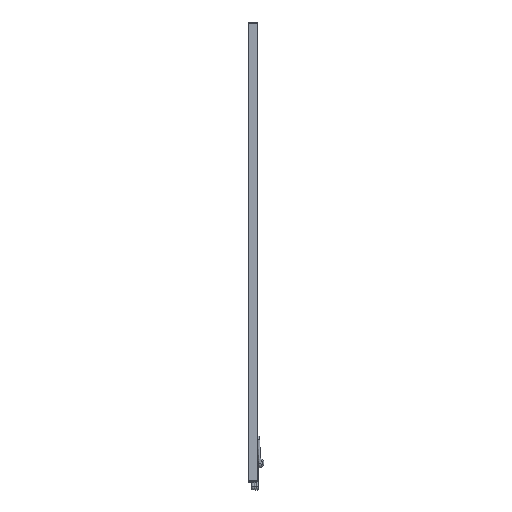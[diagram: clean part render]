
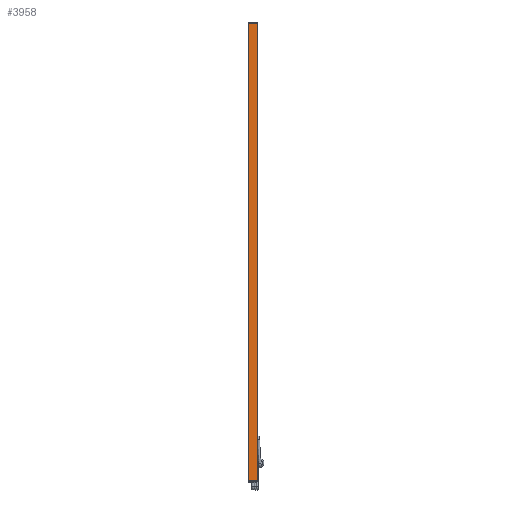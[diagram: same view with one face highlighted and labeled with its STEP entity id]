
A CAD part, front view. The second image highlights one B-rep face of the part: STEP entity #3958.
In plain terms, the highlighted planar face has unit normal (0, -1, 0).
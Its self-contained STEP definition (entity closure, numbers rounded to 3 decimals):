
#3680=CARTESIAN_POINT('',(18.421,0.,1955.8));
#3681=VERTEX_POINT('',#3680);
#3689=CARTESIAN_POINT('',(18.421,0.,0.0));
#3690=VERTEX_POINT('',#3689);
#3691=CARTESIAN_POINT('',(18.421,0.0,1955.8));
#3692=DIRECTION('',(0.0,0.0,-1.0));
#3693=VECTOR('',#3692,1955.8);
#3694=LINE('',#3691,#3693);
#3695=EDGE_CURVE('',#3681,#3690,#3694,.T.);
#3721=CARTESIAN_POINT('',(-18.421,0.,0.0));
#3722=VERTEX_POINT('',#3721);
#3723=CARTESIAN_POINT('',(-18.421,0.,0.0));
#3724=DIRECTION('',(1.0,0.0,0.0));
#3725=VECTOR('',#3724,36.842);
#3726=LINE('',#3723,#3725);
#3727=EDGE_CURVE('',#3722,#3690,#3726,.T.);
#3935=CARTESIAN_POINT('',(18.735,0.0,0.0));
#3936=DIRECTION('',(0.0,-1.0,0.0));
#3937=DIRECTION('',(0.0,0.0,-1.0));
#3938=AXIS2_PLACEMENT_3D('',#3935,#3936,#3937);
#3939=PLANE('',#3938);
#3940=ORIENTED_EDGE('',*,*,#3695,.F.);
#3941=CARTESIAN_POINT('',(-18.421,0.,1955.8));
#3942=VERTEX_POINT('',#3941);
#3943=CARTESIAN_POINT('',(18.421,0.,1955.8));
#3944=DIRECTION('',(-1.0,0.0,0.0));
#3945=VECTOR('',#3944,36.842);
#3946=LINE('',#3943,#3945);
#3947=EDGE_CURVE('',#3681,#3942,#3946,.T.);
#3948=ORIENTED_EDGE('',*,*,#3947,.T.);
#3949=CARTESIAN_POINT('',(-18.421,0.0,0.0));
#3950=DIRECTION('',(0.0,0.0,1.0));
#3951=VECTOR('',#3950,1955.8);
#3952=LINE('',#3949,#3951);
#3953=EDGE_CURVE('',#3722,#3942,#3952,.T.);
#3954=ORIENTED_EDGE('',*,*,#3953,.F.);
#3955=ORIENTED_EDGE('',*,*,#3727,.T.);
#3956=EDGE_LOOP('',(#3940,#3948,#3954,#3955));
#3957=FACE_OUTER_BOUND('',#3956,.T.);
#3958=ADVANCED_FACE('',(#3957),#3939,.T.);
